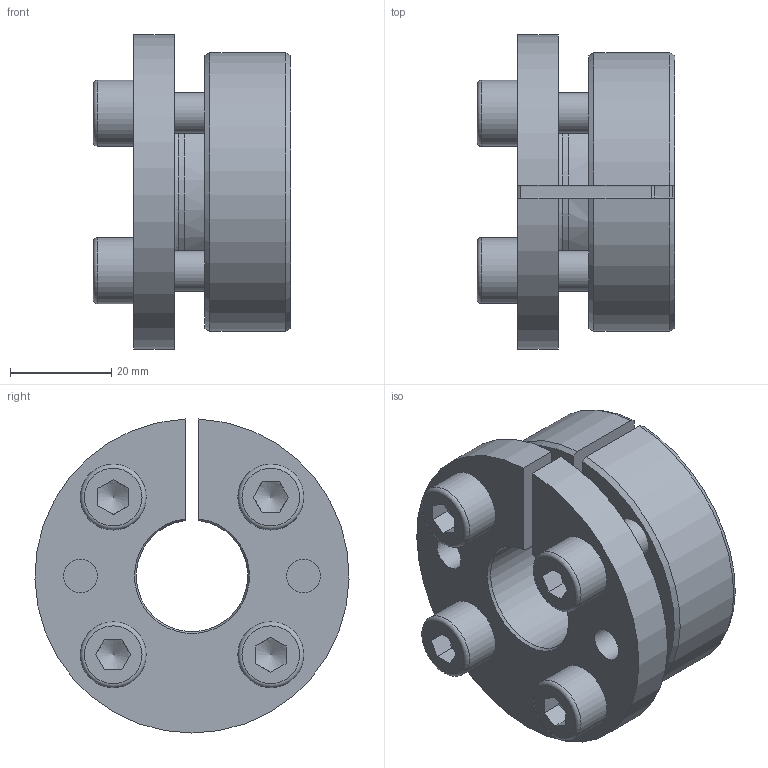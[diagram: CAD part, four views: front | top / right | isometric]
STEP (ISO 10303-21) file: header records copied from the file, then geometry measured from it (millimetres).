
FILE_DESCRIPTION(/* description */ ('CALETTATORI RCK 15 D.22/55'),/* implementation_level */ '2;1');
FILE_NAME(/* name */ '06150022.stp',/* time_stamp */ '2023-05-10T15:02:08+02:00',/* author */ ('Paolo.Silvestro'),/* organization */ (''),/* preprocessor_version */ 'ST-DEVELOPER v19.2',/* originating_system */ 'Autodesk Inventor 2023',/* authorisation */ '');
FILE_SCHEMA (('CONFIG_CONTROL_DESIGN'));
Length unit declared in the file: millimetre
Products named in the file (4): 06150022; 06156022; 06155055; ISO 4762  - M8 x 25
Assembly tree (6 placements, depth 2):
  06150022
    06156022
    06155055
    ISO 4762  - M8 x 25  x4
Bounding box: 39 x 61.99 x 61.97 mm (x, y, z)
Volume: 59096.5 mm3; surface area: 25471.5 mm2
Topology: 6 solids, 6 shells, 92 faces, 240 edges, 160 vertices
Faces by surface type: plane 45, cylinder 23, cone 15, torus 9
Full cylindrical faces by diameter (mm): 6.647 x6, 8 x4, 9 x4, 13 x4
Entity records: 1822 total; most frequent: CARTESIAN_POINT 404, DIRECTION 280, ORIENTED_EDGE 262, EDGE_CURVE 131, AXIS2_PLACEMENT_3D 115, VERTEX_POINT 88, EDGE_LOOP 65, CIRCLE 58
